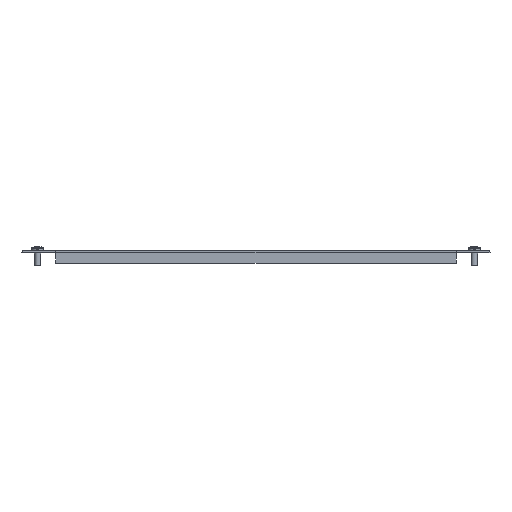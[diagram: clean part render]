
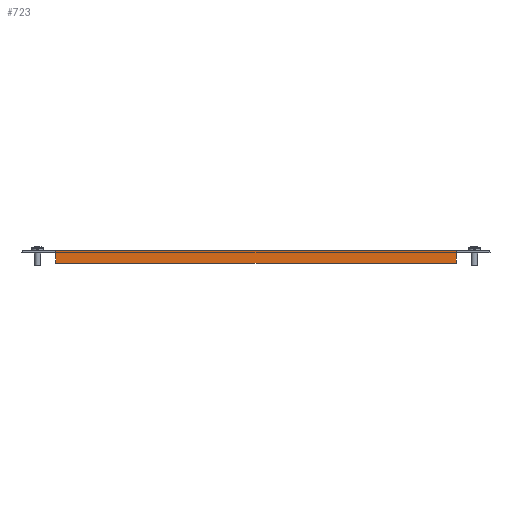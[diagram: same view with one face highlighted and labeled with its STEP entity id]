
A CAD part, front view. The second image highlights one B-rep face of the part: STEP entity #723.
In plain terms, the highlighted planar face has unit normal (0, -1, 0).
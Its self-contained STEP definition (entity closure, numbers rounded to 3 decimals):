
#54 = EDGE_CURVE ( 'NONE', #5430, #3795, #4908, .T. ) ;
#194 = DIRECTION ( 'NONE',  ( 0., 0., 1. ) ) ;
#287 = FACE_OUTER_BOUND ( 'NONE', #5091, .T. ) ;
#334 = VERTEX_POINT ( 'NONE', #2631 ) ;
#503 = ORIENTED_EDGE ( 'NONE', *, *, #4803, .T. ) ;
#521 = DIRECTION ( 'NONE',  ( -1., 0., 0. ) ) ;
#547 = CARTESIAN_POINT ( 'NONE',  ( 0., -635., 0. ) ) ;
#609 = EDGE_CURVE ( 'NONE', #334, #3795, #657, .T. ) ;
#657 = LINE ( 'NONE', #4032, #4559 ) ;
#723 = ADVANCED_FACE ( 'NONE', ( #287 ), #3385, .T. ) ;
#755 = VECTOR ( 'NONE', #1107, 1000. ) ;
#757 = CARTESIAN_POINT ( 'NONE',  ( 160.5, -635., -2.4 ) ) ;
#890 = EDGE_CURVE ( 'NONE', #1902, #2969, #1057, .T. ) ;
#1057 = LINE ( 'NONE', #2783, #4393 ) ;
#1070 = ORIENTED_EDGE ( 'NONE', *, *, #2251, .F. ) ;
#1107 = DIRECTION ( 'NONE',  ( 0., 0., -1. ) ) ;
#1154 = DIRECTION ( 'NONE',  ( 0., 0., -1. ) ) ;
#1229 = CARTESIAN_POINT ( 'NONE',  ( 160.5, -635., -10. ) ) ;
#1254 = CARTESIAN_POINT ( 'NONE',  ( -160.5, -635., 0. ) ) ;
#1559 = DIRECTION ( 'NONE',  ( 0., -1., 0. ) ) ;
#1588 = CARTESIAN_POINT ( 'NONE',  ( 160.5, -635., -2.4 ) ) ;
#1705 = VERTEX_POINT ( 'NONE', #1588 ) ;
#1800 = ORIENTED_EDGE ( 'NONE', *, *, #890, .F. ) ;
#1902 = VERTEX_POINT ( 'NONE', #3456 ) ;
#2100 = EDGE_CURVE ( 'NONE', #2969, #334, #2353, .T. ) ;
#2251 = EDGE_CURVE ( 'NONE', #1705, #1902, #4688, .T. ) ;
#2353 = LINE ( 'NONE', #3654, #4472 ) ;
#2458 = VECTOR ( 'NONE', #521, 1000. ) ;
#2545 = DIRECTION ( 'NONE',  ( 0., 0., 1. ) ) ;
#2631 = CARTESIAN_POINT ( 'NONE',  ( -160.5, -635., -2.4 ) ) ;
#2783 = CARTESIAN_POINT ( 'NONE',  ( -160.5, -635., -10. ) ) ;
#2865 = VECTOR ( 'NONE', #2545, 1000. ) ;
#2969 = VERTEX_POINT ( 'NONE', #4331 ) ;
#3001 = ORIENTED_EDGE ( 'NONE', *, *, #2100, .F. ) ;
#3100 = AXIS2_PLACEMENT_3D ( 'NONE', #5131, #1559, #1154 ) ;
#3385 = PLANE ( 'NONE',  #3100 ) ;
#3456 = CARTESIAN_POINT ( 'NONE',  ( 160.5, -635., -10. ) ) ;
#3654 = CARTESIAN_POINT ( 'NONE',  ( -160.5, -635., -1.8 ) ) ;
#3679 = ORIENTED_EDGE ( 'NONE', *, *, #54, .T. ) ;
#3795 = VERTEX_POINT ( 'NONE', #1254 ) ;
#4032 = CARTESIAN_POINT ( 'NONE',  ( -160.5, -635., 0. ) ) ;
#4109 = DIRECTION ( 'NONE',  ( 0., 0., 1. ) ) ;
#4331 = CARTESIAN_POINT ( 'NONE',  ( -160.5, -635., -10. ) ) ;
#4393 = VECTOR ( 'NONE', #4507, 1000. ) ;
#4472 = VECTOR ( 'NONE', #4109, 1000. ) ;
#4507 = DIRECTION ( 'NONE',  ( -1., 0., 0. ) ) ;
#4559 = VECTOR ( 'NONE', #194, 1000. ) ;
#4688 = LINE ( 'NONE', #1229, #755 ) ;
#4801 = CARTESIAN_POINT ( 'NONE',  ( 160.5, -635., 0. ) ) ;
#4803 = EDGE_CURVE ( 'NONE', #1705, #5430, #5187, .T. ) ;
#4908 = LINE ( 'NONE', #547, #2458 ) ;
#4991 = ORIENTED_EDGE ( 'NONE', *, *, #609, .F. ) ;
#5091 = EDGE_LOOP ( 'NONE', ( #1070, #503, #3679, #4991, #3001, #1800 ) ) ;
#5131 = CARTESIAN_POINT ( 'NONE',  ( 0., -635., 0. ) ) ;
#5187 = LINE ( 'NONE', #757, #2865 ) ;
#5430 = VERTEX_POINT ( 'NONE', #4801 ) ;
